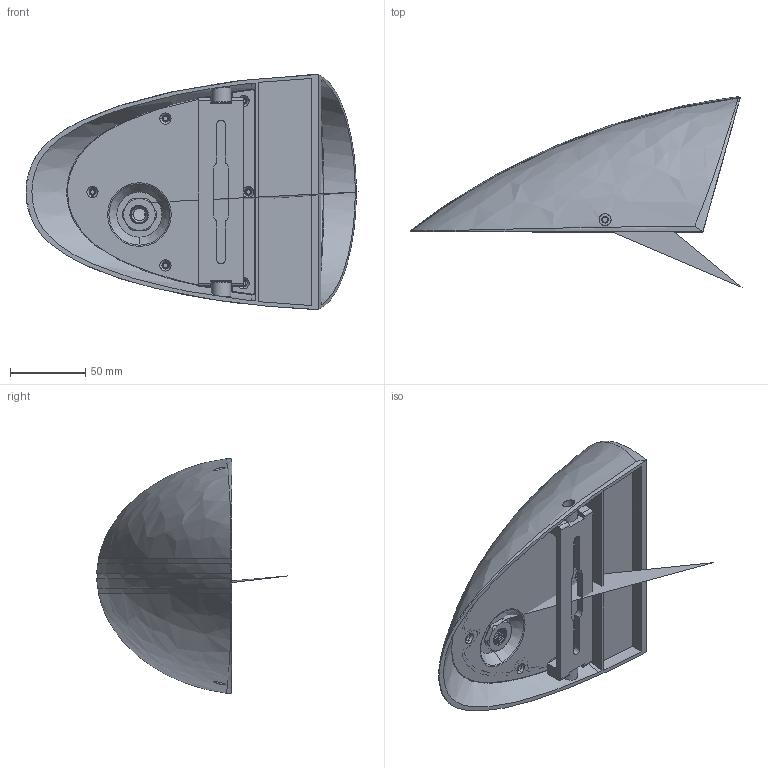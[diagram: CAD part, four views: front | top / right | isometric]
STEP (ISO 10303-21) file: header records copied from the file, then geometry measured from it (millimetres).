
FILE_DESCRIPTION((''),'2;1');
FILE_NAME('7BC_ASM','2024-09-03T14:07:05',('C029'),(''),'CREO PARAMETRIC BY PTC INC, 2021063','CREO PARAMETRIC BY PTC INC, 2021063','');
FILE_SCHEMA(('AUTOMOTIVE_DESIGN { 1 0 10303 214 1 1 1 1 }'));
Products named in the file (10): BACK-COVER; 7BC013; 7BC015; R7BCDTXGH; 7BC012; 7BCFSD; 7BC00; 7BC014; 7BC_ASM
Assembly tree (9 placements, depth 2):
  7BC_ASM
    BACK-COVER
    7BC013
    7BC015
    R7BCDTXGH
    7BC012
    7BCFSD
    7BC00
    7BC014
    7BC00
Bounding box: 220.62 x 126.7 x 156.33 mm (x, y, z)
Volume: 407132.2 mm3; surface area: 181577.9 mm2
Topology: 8 solids, 8 shells, 1140 faces, 3055 edges, 1992 vertices
Faces by surface type: plane 372, cylinder 327, cone 152, bspline 138, torus 94, extrusion 45, sphere 12
Entity records: 59906 total; most frequent: CARTESIAN_POINT 24021, ORIENTED_EDGE 6082, DIRECTION 5607, EDGE_CURVE 3041, PRESENTATION_STYLE_ASSIGNMENT 2421, STYLED_ITEM 2421, CURVE_STYLE 2414, AXIS2_PLACEMENT_3D 2105
